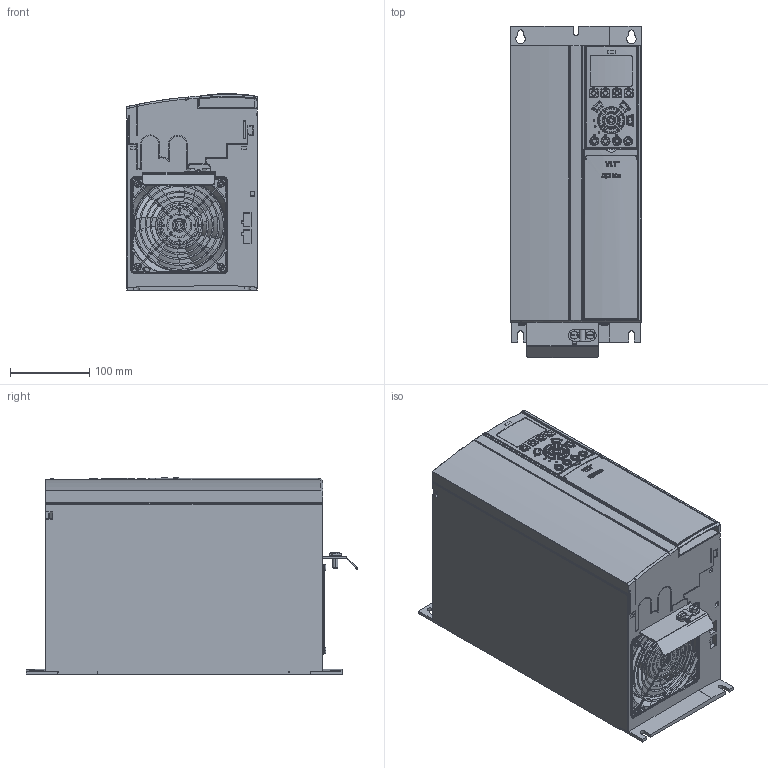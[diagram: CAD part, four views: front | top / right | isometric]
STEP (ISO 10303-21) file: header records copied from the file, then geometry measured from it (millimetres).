
FILE_DESCRIPTION((''),'2;1');
FILE_NAME('DANFOSS-FC200-B3-IP20-095','2007-06-14T',('janardhan.mankala'),('dan Drives A/S'),'PRO/ENGINEER BY PARAMETRIC TECHNOLOGY CORPORATION, 2006200','PRO/ENGINEER BY PARAMETRIC TECHNOLOGY CORPORATION, 2006200','');
FILE_SCHEMA(('CONFIG_CONTROL_DESIGN', 'GEOMETRIC_VALIDATION_PROPERTIES_MIM'));
Products named in the file (1): DANFOSS-FC200-B3-IP20-095
Bounding box: 165.09 x 419 x 248.01 mm (x, y, z)
Volume: 13624171.6 mm3; surface area: 527481.4 mm2
Topology: 2 solids, 19 shells, 3404 faces, 8232 edges, 4974 vertices
Faces by surface type: cylinder 1197, plane 1009, bspline 516, torus 364, sphere 169, extrusion 82, cone 67
Entity records: 168659 total; most frequent: CARTESIAN_POINT 57273, ORIENTED_EDGE 16460, DIRECTION 14279, PRESENTATION_STYLE_ASSIGNMENT 9777, STYLED_ITEM 8533, CURVE_STYLE 8230, EDGE_CURVE 8230, AXIS2_PLACEMENT_3D 5334
